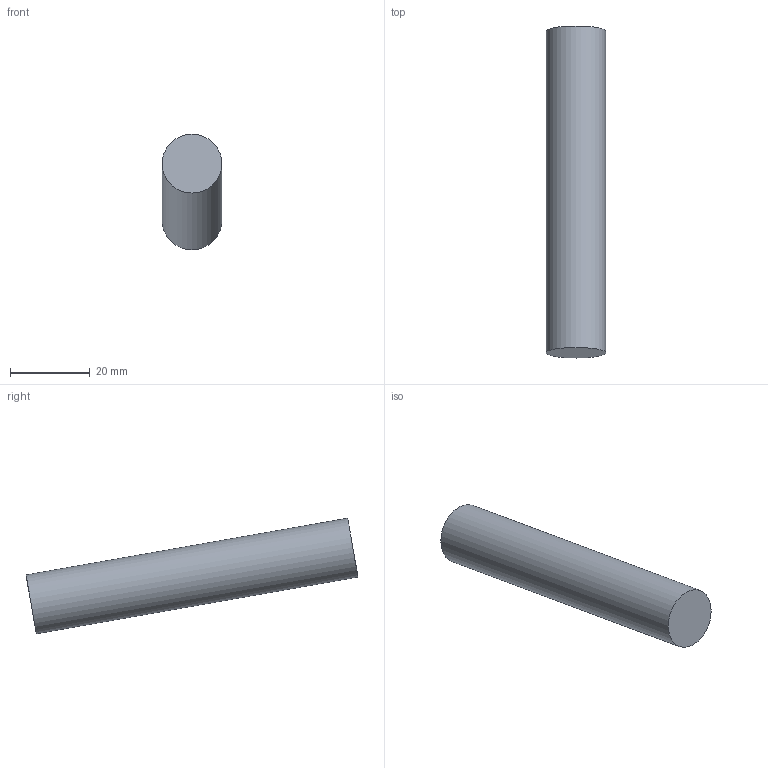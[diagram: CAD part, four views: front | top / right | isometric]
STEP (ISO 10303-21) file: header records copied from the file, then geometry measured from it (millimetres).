
FILE_DESCRIPTION(('golf model'),'2;1');
FILE_NAME('golf','',(''),(''),'golf_step_io','golf','');
FILE_SCHEMA(('AUTOMOTIVE_DESIGN { 1 0 10303 214 1 1 1 1 }'));
Length unit declared in the file: millimetre
Products named in the file (2): ASSEMBLY; gantry_drives.x_shaft_bottom
Assembly tree (1 placements, depth 2):
  ASSEMBLY
    gantry_drives.x_shaft_bottom
Bounding box: 15 x 83.36 x 29.01 mm (x, y, z)
Volume: 14490.6 mm3; surface area: 4217.6 mm2
Topology: 1 solids, 1 shells, 3 faces, 3 edges, 2 vertices
Faces by surface type: plane 2, cylinder 1
Full cylindrical faces by diameter (mm): 15 x1
Entity records: 88 total; most frequent: DIRECTION 14, CARTESIAN_POINT 9, AXIS2_PLACEMENT_3D 7, ORIENTED_EDGE 4, EDGE_LOOP 4, FACE_BOUND 4, ADVANCED_FACE 3, PRODUCT_DEFINITION_SHAPE 3
